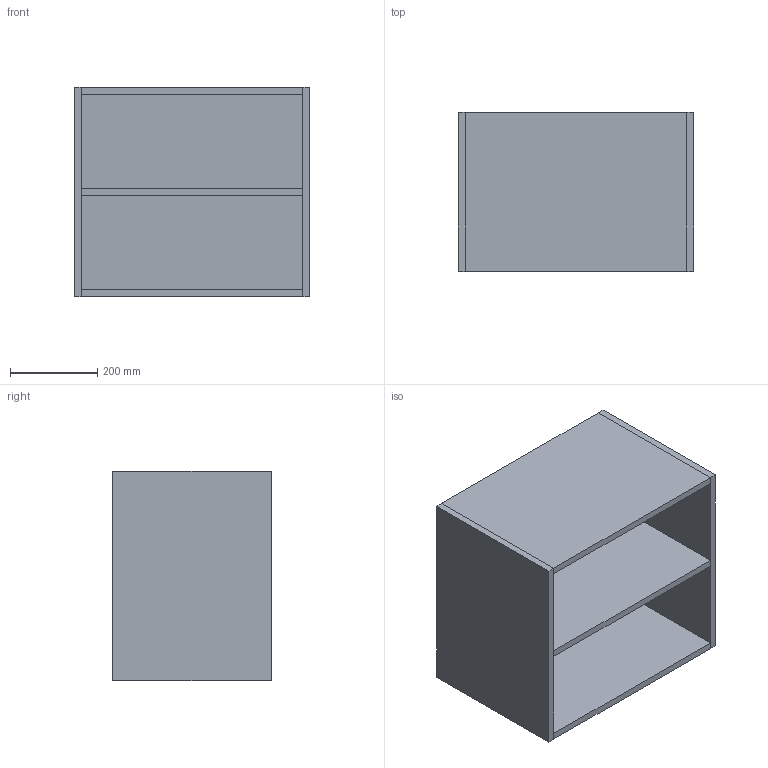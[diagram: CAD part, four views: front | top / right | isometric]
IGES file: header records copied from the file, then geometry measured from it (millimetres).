
Start section: Data from Parasolid IGES Translator 19.0.9, Copyright(c) 2006 Siemens PL M Software. All Rights Reserved.
Global section: file name: noorth-SI-H 48 D 38,8 W 54_8457.igs; native system: By Siemens PLM Incorporated; preprocessor: XPlus GENERIC/IGES 19.0.9; author: Noname; organization: Noname; date: 20200601.103936; units: metre
Bounding box: 540.01 x 364.06 x 480 mm (x, y, z)
Volume: 15119633.3 mm3; surface area: 2406828.2 mm2
Topology: 6 solids, 6 shells, 36 faces, 72 edges, 48 vertices
Faces by surface type: plane 36
